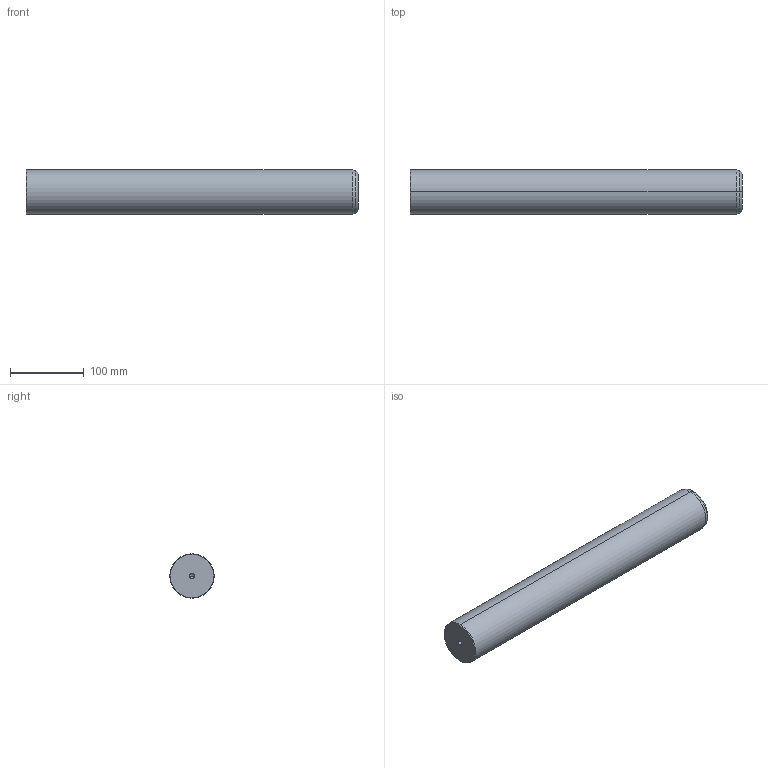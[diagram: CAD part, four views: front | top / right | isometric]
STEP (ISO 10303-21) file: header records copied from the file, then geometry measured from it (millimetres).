
FILE_DESCRIPTION(('CATIA V5 STEP Exchange'),'2;1');
FILE_NAME('C:\Users\Utente\Desktop\IO LAVORO\3D X SITO CF\X SITO\720\720-60x450.stp','2020-12-30T21:31:33+00:00',('none'),('none'),'CATIA Version 5 Release 20 GA (IN-10)','CATIA V5 STEP AP203','none');
FILE_SCHEMA(('CONFIG_CONTROL_DESIGN'));
Length unit declared in the file: millimetre
Products named in the file (1): 720-60x450
Bounding box: 450 x 60 x 60 mm (x, y, z)
Volume: 1268510.1 mm3; surface area: 90798.1 mm2
Topology: 1 solids, 1 shells, 22 faces, 62 edges, 40 vertices
Faces by surface type: cone 12, cylinder 6, plane 2, torus 2
Entity records: 806 total; most frequent: CARTESIAN_POINT 229, ORIENTED_EDGE 116, DIRECTION 93, EDGE_CURVE 58, AXIS2_PLACEMENT_3D 54, VERTEX_POINT 40, CIRCLE 31, EDGE_LOOP 24
